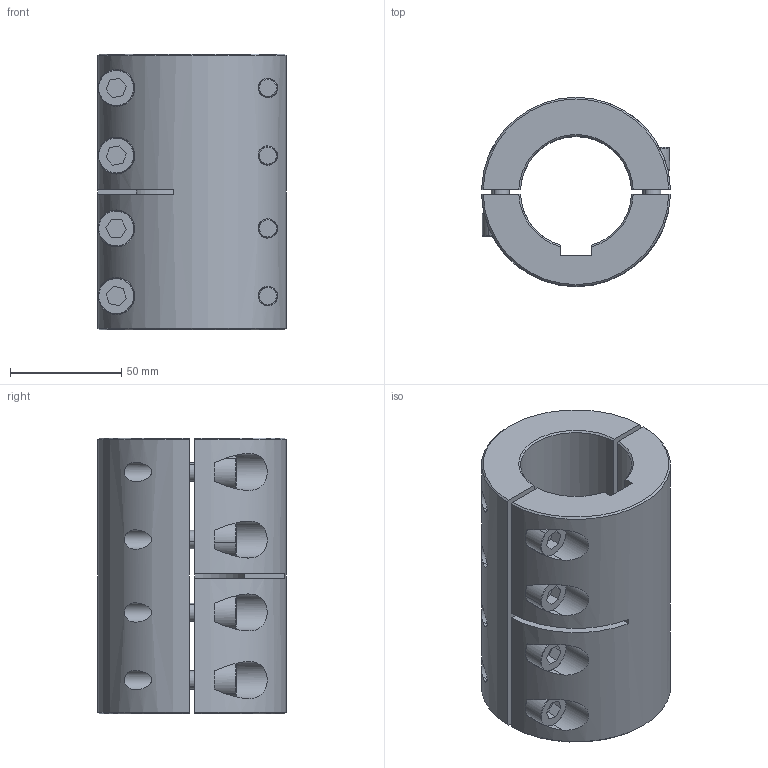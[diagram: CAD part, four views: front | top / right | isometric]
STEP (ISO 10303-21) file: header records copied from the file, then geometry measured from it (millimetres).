
FILE_DESCRIPTION((''),'2;1');
FILE_NAME('MSPC-50-50-X','2016-09-08T',('SYSTEM'),(''),'PRO/ENGINEER BY PARAMETRIC TECHNOLOGY CORPORATION, 2015110','PRO/ENGINEER BY PARAMETRIC TECHNOLOGY CORPORATION, 2015110','');
FILE_SCHEMA(('AUTOMOTIVE_DESIGN { 1 0 10303 214 1 1 1 1 }'));
Length unit declared in the file: inch
Products named in the file (1): MSPC-50-50-X
Bounding box: 84.97 x 85 x 124 mm (x, y, z)
Volume: 420557.4 mm3; surface area: 91306.5 mm2
Topology: 2 solids, 2 shells, 242 faces, 570 edges, 364 vertices
Faces by surface type: plane 115, cylinder 85, cone 42
Entity records: 9214 total; most frequent: CARTESIAN_POINT 1744, DIRECTION 1206, ORIENTED_EDGE 1140, PRESENTATION_STYLE_ASSIGNMENT 572, STYLED_ITEM 572, CURVE_STYLE 570, EDGE_CURVE 570, AXIS2_PLACEMENT_3D 446
